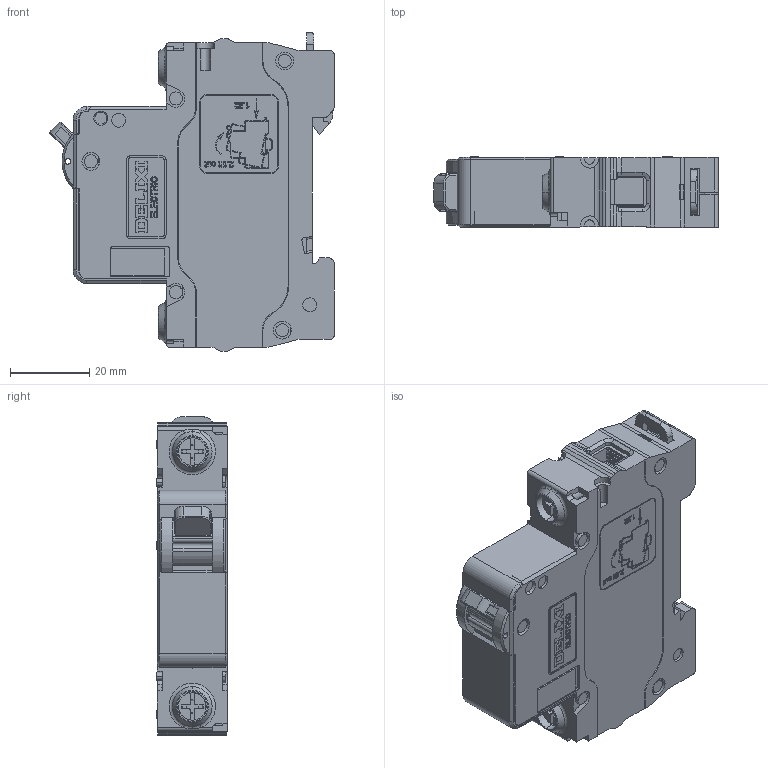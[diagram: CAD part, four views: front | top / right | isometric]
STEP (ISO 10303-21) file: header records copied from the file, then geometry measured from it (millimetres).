
FILE_DESCRIPTION((''),'2;1');
FILE_NAME('2250005300_ASM_SW0001','2019-07-17T',('xiao.wang'),(''),'PRO/ENGINEER BY PARAMETRIC TECHNOLOGY CORPORATION, 2015440','PRO/ENGINEER BY PARAMETRIC TECHNOLOGY CORPORATION, 2015440','');
FILE_SCHEMA(('CONFIG_CONTROL_DESIGN'));
Products named in the file (1): 2250005300_ASM_SW0001
Bounding box: 71.87 x 17.85 x 80.5 mm (x, y, z)
Volume: 65693.9 mm3; surface area: 24046.2 mm2
Topology: 1 solids, 1 shells, 2992 faces, 8338 edges, 5500 vertices
Faces by surface type: plane 2058, cylinder 509, extrusion 269, cone 111, torus 33, bspline 9, sphere 3
Entity records: 97798 total; most frequent: CARTESIAN_POINT 21133, ORIENTED_EDGE 16652, DIRECTION 14587, EDGE_CURVE 8326, VECTOR 6583, LINE 6314, VERTEX_POINT 5500, AXIS2_PLACEMENT_3D 4002
